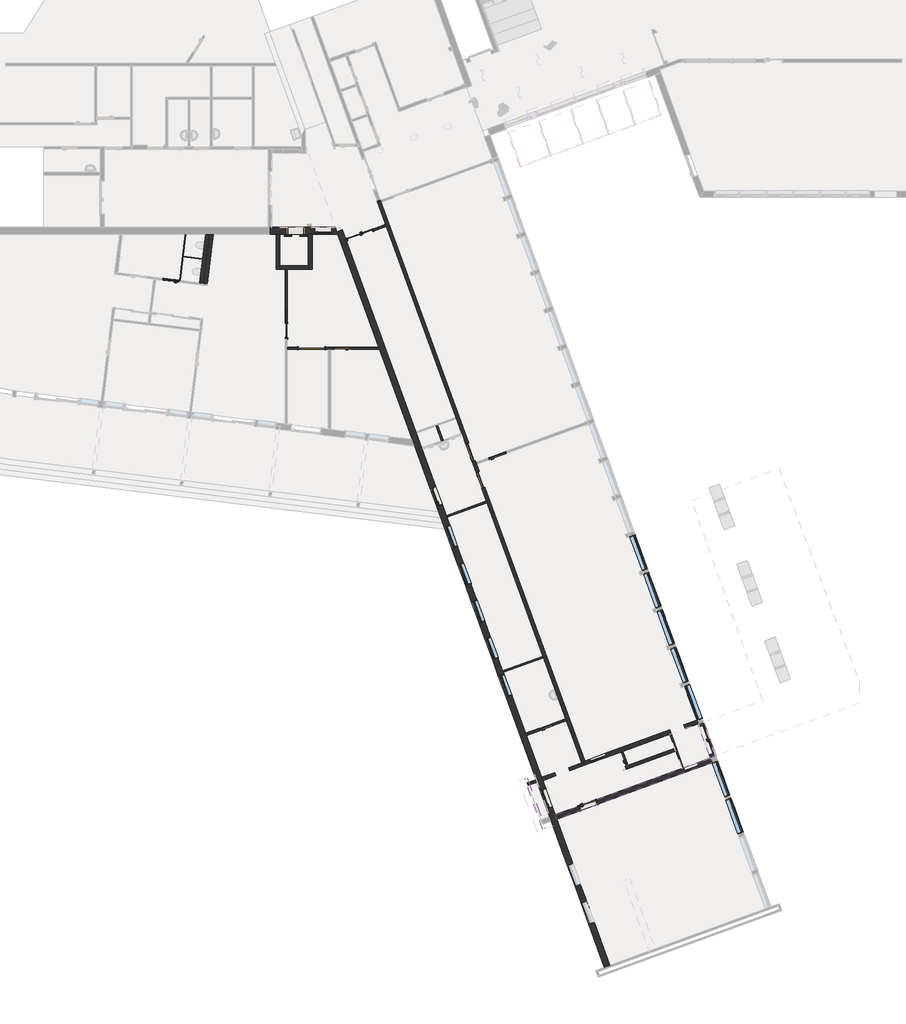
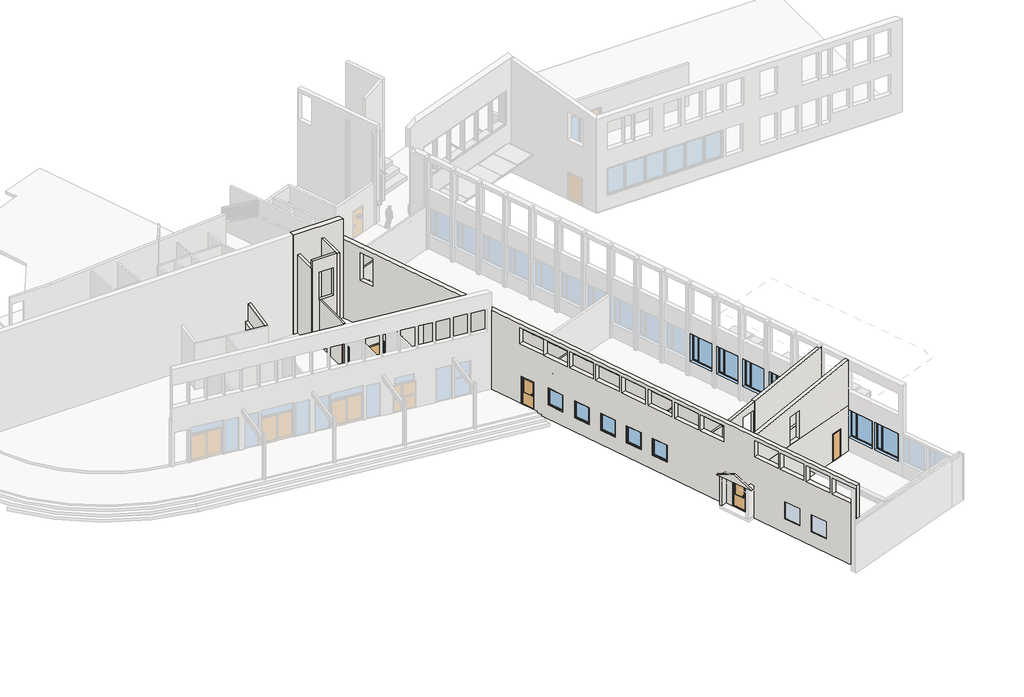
# One storey, part 3 of 13: 27 walls, 18 doors, 12 windows.
"""IFC4 building model written with IfcOpenShell, lengths in millimetres."""

from ifc_helpers import new_model, si_unit, frame, origin, place, context, project, spatial, polyline, outline, extrude, faceted_brep, transform, mapped, element, save
from components import door_10x21_93745690, door_10x21_f5951159, door_10x21_48b2b463, door_11x14_eecd2c83, door_7x20_159f4b39, door_8x21_c9f185f7, door_8x21_53164427, door_9x21_ce0798c1, door_9x21_26e5542c, door_9x21_9f36cf64, door_9x21_cb854033, door_9x21_cc0549d7, door_dbl_glass_1_side_topwindow_in_16x21m_3a073210, id_14x21m_9ddf2398, m_door_id_ays_2_1510_x_2110mm_sgl_swing_0fa4cad0, m_door_id_sgl_3_1010_x_2110mm_fbabd271, window_12x13_gh_d70a3594, window_193x212_32d242da, window_193x212_1140f226

model = new_model("IFC4")

# Units and contexts
model_context = context("Model", 3, world=origin())
ifc_project = project(units=[si_unit("LENGTHUNIT", "METRE", prefix="MILLI")], contexts=[model_context])

# Site, building, storey
site = spatial("IfcSite", under=ifc_project)
building = spatial("IfcBuilding", under=site)
storey = spatial("IfcBuildingStorey", under=building, Name="1.0 første etg hovedbygg", Elevation=2500.0)

# Doors
placement = place(None, origin())
door_10x21_shape = door_10x21_93745690(model_context)
element("IfcDoor", 1, ObjectType="Ytterdør eigen 1 glatt med glas : 10x21", at=placement, inside=storey, context=model_context, shape_type="MappedRepresentation", body=[
    mapped(door_10x21_shape, transform((38062.4638227, -30952.6972516, 2500.0), x_axis=(0.34202014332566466, -0.9396926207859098, 0.0), y_axis=(0.9396926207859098, 0.34202014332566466, 0.0), z_axis=(0.0, 0.0, 1.0))),
])
element("IfcDoor", 2, ObjectType="Ytterdør eigen 1 glatt med glas : 10x21", at=placement, inside=storey, context=model_context, shape_type="MappedRepresentation", body=[
    mapped(door_10x21_shape, transform((32126.7042353, -14644.3318179, 2500.0), x_axis=(0.34202014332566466, -0.9396926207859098, 0.0), y_axis=(0.9396926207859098, 0.34202014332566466, 0.0), z_axis=(0.0, 0.0, 1.0))),
])
door_10x21_2_shape = door_10x21_f5951159(model_context)
element("IfcDoor", 3, ObjectType="Innerdør Slett (Diplomat) : 10x21", at=placement, inside=storey, context=model_context, shape_type="MappedRepresentation", body=[
    mapped(door_10x21_2_shape, transform((35483.5155056, -12410.5193718, 2500.0), x_axis=(-0.9396926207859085, -0.34202014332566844, 0.0), y_axis=(0.34202014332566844, -0.9396926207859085, 0.0), z_axis=(0.0, 0.0, 1.0))),
])
door_10x21_3_shape = door_10x21_48b2b463(model_context)
element("IfcDoor", 4, ObjectType="Innerdør Slett (Diplomat) : 10x21", at=placement, inside=storey, context=model_context, shape_type="MappedRepresentation", body=[
    mapped(door_10x21_3_shape, transform((33969.2653414, -12221.7875865, 2500.0), x_axis=(0.34202014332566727, -0.9396926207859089, 0.0), y_axis=(0.9396926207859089, 0.34202014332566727, 0.0), z_axis=(0.0, 0.0, 1.0))),
])
door_11x14_shape = door_11x14_eecd2c83(model_context)
element("IfcDoor", 5, ObjectType="Hiss : 11x14", at=placement, inside=storey, context=model_context, shape_type="MappedRepresentation", body=[
    mapped(door_11x14_shape, transform((24631.409584, -295.0, 2500.0), x_axis=(-1.0, 0.0, 0.0), y_axis=(0.0, -1.0, 0.0), z_axis=(0.0, 0.0, 1.0))),
])
door_7x20_shape = door_7x20_159f4b39(model_context)
element("IfcDoor", 6, ObjectType="Innerdør Slett (Diplomat) : 7x20", at=placement, inside=storey, context=model_context, shape_type="MappedRepresentation", body=[
    mapped(door_7x20_shape, transform((42263.7852938, -28722.9083202, 2500.0), x_axis=(0.34202014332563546, -0.9396926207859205, 0.0), y_axis=(0.9396926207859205, 0.34202014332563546, 0.0), z_axis=(0.0, 0.0, 1.0))),
])
door_8x21_shape = door_8x21_c9f185f7(model_context)
element("IfcDoor", 7, ObjectType="Innerdør Slett (Diplomat) : 8x21", at=placement, inside=storey, context=model_context, shape_type="MappedRepresentation", body=[
    mapped(door_8x21_shape, transform((45954.7042998, -29250.752186, 2500.0), x_axis=(-0.9396926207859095, -0.3420201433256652, 0.0), y_axis=(0.3420201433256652, -0.9396926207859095, 0.0), z_axis=(0.0, 0.0, 1.0))),
])
door_8x21_2_shape = door_8x21_53164427(model_context)
element("IfcDoor", 8, ObjectType="Innerdør Slett (Diplomat) : 8x21", at=placement, inside=storey, context=model_context, shape_type="MappedRepresentation", body=[
    mapped(door_8x21_2_shape, transform((38132.5835837, -27056.7611873, 2500.0), x_axis=(-0.9396926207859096, -0.3420201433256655, 0.0), y_axis=(0.3420201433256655, -0.9396926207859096, 0.0), z_axis=(0.0, 0.0, 1.0))),
])
door_9x21_shape = door_9x21_ce0798c1(model_context)
element("IfcDoor", 9, ObjectType="Innerdør Slett (Diplomat) : 9x21", at=placement, inside=storey, context=model_context, shape_type="MappedRepresentation", body=[
    mapped(door_9x21_shape, transform((26994.5291738, -6630.0, 2500.0), x_axis=(1.0, 0.0, 0.0), y_axis=(0.0, 1.0, 0.0), z_axis=(0.0, 0.0, 1.0))),
])
element("IfcDoor", 10, ObjectType="Innerdør Slett (Diplomat) : 9x21", at=placement, inside=storey, context=model_context, shape_type="MappedRepresentation", body=[
    mapped(door_9x21_shape, transform((17755.1907324, -2955.8596873, 2500.0), x_axis=(0.9925461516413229, -0.1218693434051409, 0.0), y_axis=(0.1218693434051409, 0.9925461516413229, 0.0), z_axis=(0.0, 0.0, 1.0))),
])
door_9x21_2_shape = door_9x21_26e5542c(model_context)
element("IfcDoor", 11, ObjectType="Innerdør Slett (Diplomat) : 9x21", at=placement, inside=storey, context=model_context, shape_type="MappedRepresentation", body=[
    mapped(door_9x21_2_shape, transform((40917.945674, -28744.9196591, 2500.0), x_axis=(-0.9396926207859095, -0.34202014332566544, 0.0), y_axis=(0.34202014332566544, -0.9396926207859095, 0.0), z_axis=(0.0, 0.0, 1.0))),
])
door_9x21_3_shape = door_9x21_9f36cf64(model_context)
element("IfcDoor", 12, ObjectType="Innerdør Slett (Diplomat) : 9x21", at=placement, inside=storey, context=model_context, shape_type="MappedRepresentation", body=[
    mapped(door_9x21_3_shape, transform((34539.3305845, -13788.0289695, 2500.0), x_axis=(-0.34202014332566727, 0.9396926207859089, 0.0), y_axis=(-0.9396926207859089, -0.34202014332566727, 0.0), z_axis=(0.0, 0.0, 1.0))),
])
door_9x21_4_shape = door_9x21_cb854033(model_context)
element("IfcDoor", 13, ObjectType="Innerdør stål branndørA60 : 9x21", at=placement, inside=storey, context=model_context, shape_type="MappedRepresentation", body=[
    mapped(door_9x21_4_shape, transform((26086.6929048, -295.0, 2500.0), x_axis=(-1.0, 0.0, 0.0), y_axis=(0.0, -1.0, 0.0), z_axis=(0.0, 0.0, 1.0))),
])
door_9x21_5_shape = door_9x21_cc0549d7(model_context)
element("IfcDoor", 14, ObjectType="Innerdor Skyvedor Glatt : 9x21", at=placement, inside=storey, context=model_context, shape_type="MappedRepresentation", body=[
    mapped(door_9x21_5_shape, transform((24042.9088069, -5677.0, 2500.0), x_axis=(0.0, -1.0, 0.0), y_axis=(1.0, 0.0, 0.0), z_axis=(0.0, 0.0, 1.0))),
])
door_dbl_glass_1_side_topwindow_in_16x21m_shape = door_dbl_glass_1_side_topwindow_in_16x21m_3a073210(model_context)
element("IfcDoor", 15, ObjectType="Door-Dbl-Glass-1-Side-TopWindow : IN 16x21M", at=placement, inside=storey, context=model_context, shape_type="MappedRepresentation", body=[
    mapped(door_dbl_glass_1_side_topwindow_in_16x21m_shape, transform((46740.7773769, -27780.2151232, 2500.0), x_axis=(0.34202014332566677, -0.9396926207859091, 0.0), y_axis=(0.9396926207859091, 0.34202014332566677, 0.0), z_axis=(0.0, 0.0, 1.0))),
])
id_14x21m_shape = id_14x21m_9ddf2398(model_context)
element("IfcDoor", 16, ObjectType="Innerdør slett tofløya lite sidefelt : ID 14x21M", at=placement, inside=storey, context=model_context, shape_type="MappedRepresentation", body=[
    mapped(id_14x21m_shape, transform((24794.9088069, -6630.0, 2500.0), x_axis=(-1.0, 0.0, 0.0), y_axis=(0.0, -1.0, 0.0), z_axis=(0.0, 0.0, 1.0))),
])
m_door_id_ays_2_1510_x_2110mm_sgl_swing_shape = m_door_id_ays_2_1510_x_2110mm_sgl_swing_0fa4cad0(model_context)
element("IfcDoor", 17, ObjectType="M_Door_ID_Ays_2 : 1510 x 2110mm Sgl Swing", at=placement, inside=storey, context=model_context, shape_type="MappedRepresentation", body=[
    mapped(m_door_id_ays_2_1510_x_2110mm_sgl_swing_shape, transform((28237.2384467, -437.8518922, 2500.0), x_axis=(-0.9396926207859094, -0.34202014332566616, 0.0), y_axis=(0.34202014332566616, -0.9396926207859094, 0.0), z_axis=(0.0, 0.0, 1.0))),
])
m_door_id_sgl_3_1010_x_2110mm_shape = m_door_id_sgl_3_1010_x_2110mm_fbabd271(model_context)
element("IfcDoor", 18, ObjectType="M_Door_ID_Sgl_3 : 1010 x 2110mm", at=placement, inside=storey, context=model_context, shape_type="MappedRepresentation", body=[
    mapped(m_door_id_sgl_3_1010_x_2110mm_shape, transform((40328.9647362, -31298.3539329, 2500.0), x_axis=(0.9396926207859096, 0.34202014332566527, 0.0), y_axis=(-0.34202014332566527, 0.9396926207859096, 0.0), z_axis=(0.0, 0.0, 1.0))),
])

# Walls
element("IfcWall", 19, ObjectType="Yttervegg 150 betong + 150 leca innv puss", at=placement, inside=storey, context=model_context, shape_type="Brep", body=[
    faceted_brep([(41501.7701591, -39948.9240676, 2300.0), (38630.5110559, -32060.2045161, 2300.0), (38538.1656172, -31806.4875085, 2300.0), (37870.2002773, -29971.2678201, 2300.0), (37808.6366515, -29802.1231483, 2300.0), (27049.6269282, -241.9868778, 2300.0), (27049.6269282, -241.9868778, 8560.0), (41501.7701591, -39948.9240676, 8560.0), (40655.0992943, -37622.7149848, 3380.0), (40655.0992943, -37622.7149848, 4690.0), (40241.2549209, -36485.6869137, 4690.0), (40241.2549209, -36485.6869137, 3380.0), (39911.3764927, -35579.3533809, 3380.0), (39911.3764927, -35579.3533809, 4690.0), (39497.5321193, -34442.3253098, 4690.0), (39497.5321193, -34442.3253098, 3380.0), (36193.6175347, -25364.894593, 3380.0), (36193.6175347, -25364.894593, 4690.0), (35779.7731613, -24227.8665218, 4690.0), (35779.7731613, -24227.8665218, 3380.0), (35461.694428, -23353.9523845, 3380.0), (35461.694428, -23353.9523845, 4690.0), (35047.8500546, -22216.9243133, 4690.0), (35047.8500546, -22216.9243133, 3380.0), (34736.6117242, -21361.8040284, 3380.0), (34736.6117242, -21361.8040284, 4690.0), (34322.7673507, -20224.7759573, 4690.0), (34322.7673507, -20224.7759573, 3380.0), (38380.8363513, -31374.2289029, 2500.0), (38380.8363513, -31374.2289029, 4610.0), (38035.3960065, -30425.1393559, 4610.0), (38035.3960065, -30425.1393559, 2500.0), (37067.4790009, -27765.8092391, 7040.0), (37067.4790009, -27765.8092391, 8270.0), (36407.3801243, -25952.202481, 8270.0), (36407.3801243, -25952.202481, 7040.0), (35654.935809, -23884.8787152, 8270.0), (35654.935809, -23884.8787152, 7040.0), (36315.0346856, -25698.4854734, 7040.0), (36315.0346856, -25698.4854734, 8270.0), (34923.0127023, -21873.9365068, 8270.0), (34923.0127023, -21873.9365068, 7040.0), (35583.1115789, -23687.5432649, 7040.0), (35583.1115789, -23687.5432649, 8270.0), (34184.2491927, -19844.2004459, 8270.0), (34184.2491927, -19844.2004459, 7040.0), (34844.3480693, -21657.807204, 7040.0), (34844.3480693, -21657.807204, 8270.0), (40834.4888595, -38115.5837644, 8270.0), (40834.4888595, -38115.5837644, 7040.0), (41494.5877361, -39929.1905225, 7040.0), (41494.5877361, -39929.1905225, 8270.0), (40103.9855869, -36108.5425179, 8270.0), (40103.9855869, -36108.5425179, 7040.0), (40764.0844635, -37922.1492761, 7040.0), (40764.0844635, -37922.1492761, 8270.0), (39373.7725809, -34102.2987726, 8270.0), (39373.7725809, -34102.2987726, 7040.0), (40033.8714575, -35915.9055307, 7040.0), (40033.8714575, -35915.9055307, 8270.0), (38650.3999777, -32114.8488796, 8270.0), (38650.3999777, -32114.8488796, 7040.0), (39310.4988543, -33928.4556377, 7040.0), (39310.4988543, -33928.4556377, 8270.0), (37125.6224253, -27925.5569846, 8270.0), (37125.6224253, -27925.5569846, 7040.0), (37785.7213019, -29739.1637427, 7040.0), (37785.7213019, -29739.1637427, 8270.0), (34112.4249626, -19646.8649955, 8270.0), (33452.326086, -17833.2582374, 8270.0), (33452.326086, -17833.2582374, 7040.0), (34112.4249626, -19646.8649955, 7040.0), (32852.0807344, -16184.0976879, 3380.0), (33265.9251079, -17321.125759, 3380.0), (33265.9251079, -17321.125759, 4690.0), (32852.0807344, -16184.0976879, 4690.0), (32099.6364191, -14116.7739222, 2500.0), (32445.0767639, -15065.8634692, 2500.0), (32445.0767639, -15065.8634692, 4610.0), (32099.6364191, -14116.7739222, 4610.0), (27574.7099229, -1684.6405492, 8135.0), (27574.7099229, -1684.6405492, 6020.0), (27920.1502677, -2633.7300962, 6020.0), (27920.1502677, -2633.7300962, 8135.0), (32728.9534828, -15845.8083444, 7040.0), (33389.0523595, -17659.4151025, 7040.0), (33389.0523595, -17659.4151025, 8270.0), (32728.9534828, -15845.8083444, 8270.0), (32051.7535991, -13985.2169553, 7040.0), (32711.8524757, -15798.8237134, 7040.0), (32711.8524757, -15798.8237134, 8270.0), (32051.7535991, -13985.2169553, 8270.0), (34004.6886174, -19350.8618199, 3380.0), (34004.6886174, -19350.8618199, 4690.0), (33590.844244, -18213.8337488, 4690.0), (33590.844244, -18213.8337488, 3380.0), (26758.3222157, -348.0131222, 2300.0), (26806.3615106, -480.0, 2300.0), (41210.4654467, -40054.950312, 2300.0), (41210.4654467, -40054.950312, 8560.0), (26758.3222157, -348.0131222, 8560.0), (40363.7945819, -37728.7412292, 4690.0), (40363.7945819, -37728.7412292, 3380.0), (39949.9502085, -36591.7131581, 3380.0), (39949.9502085, -36591.7131581, 4690.0), (39620.0717802, -35685.3796253, 4690.0), (39620.0717802, -35685.3796253, 3380.0), (39206.2274068, -34548.3515542, 3380.0), (39206.2274068, -34548.3515542, 4690.0), (35902.3128223, -25470.9208374, 4690.0), (35902.3128223, -25470.9208374, 3380.0), (35488.4684489, -24333.8927663, 3380.0), (35488.4684489, -24333.8927663, 4690.0), (35170.3897156, -23459.9786289, 4690.0), (35170.3897156, -23459.9786289, 3380.0), (34756.5453421, -22322.9505578, 3380.0), (34756.5453421, -22322.9505578, 4690.0), (34445.3070117, -21467.8302729, 4690.0), (34445.3070117, -21467.8302729, 3380.0), (34031.4626383, -20330.8022017, 3380.0), (34031.4626383, -20330.8022017, 4690.0), (38089.5316389, -31480.2551473, 4610.0), (38089.5316389, -31480.2551473, 2500.0), (37744.0912941, -30531.1656003, 2500.0), (37744.0912941, -30531.1656003, 4610.0), (36776.1742885, -27871.8354835, 8270.0), (36776.1742885, -27871.8354835, 7040.0), (36116.0754119, -26058.2287254, 7040.0), (36116.0754119, -26058.2287254, 8270.0), (35363.6310966, -23990.9049597, 7040.0), (35363.6310966, -23990.9049597, 8270.0), (36023.7299732, -25804.5117178, 8270.0), (36023.7299732, -25804.5117178, 7040.0), (34631.7079898, -21979.9627512, 7040.0), (34631.7079898, -21979.9627512, 8270.0), (35291.8068665, -23793.5695093, 8270.0), (35291.8068665, -23793.5695093, 7040.0), (33892.9444803, -19950.2266903, 7040.0), (33892.9444803, -19950.2266903, 8270.0), (34553.0433569, -21763.8334484, 8270.0), (34553.0433569, -21763.8334484, 7040.0), (40543.1841471, -38221.6100088, 7040.0), (40543.1841471, -38221.6100088, 8270.0), (41203.2830237, -40035.216767, 8270.0), (41203.2830237, -40035.216767, 7040.0), (39812.6808744, -36214.5687624, 7040.0), (39812.6808744, -36214.5687624, 8270.0), (40472.779751, -38028.1755205, 8270.0), (40472.779751, -38028.1755205, 7040.0), (39082.4678684, -34208.325017, 7040.0), (39082.4678684, -34208.325017, 8270.0), (39742.566745, -36021.9317751, 8270.0), (39742.566745, -36021.9317751, 7040.0), (38359.0952653, -32220.875124, 7040.0), (38359.0952653, -32220.875124, 8270.0), (39019.1941419, -34034.4818821, 8270.0), (39019.1941419, -34034.4818821, 7040.0), (36834.3177129, -28031.583229, 7040.0), (36834.3177129, -28031.583229, 8270.0), (37494.4165895, -29845.1899872, 8270.0), (37494.4165895, -29845.1899872, 7040.0), (33161.0213735, -17939.2844818, 8270.0), (33821.1202502, -19752.8912399, 8270.0), (33821.1202502, -19752.8912399, 7040.0), (33161.0213735, -17939.2844818, 7040.0), (32974.6203954, -17427.1520035, 3380.0), (32560.776022, -16290.1239323, 3380.0), (32560.776022, -16290.1239323, 4690.0), (32974.6203954, -17427.1520035, 4690.0), (32153.7720514, -15171.8897136, 2500.0), (31808.3317067, -14222.8001666, 2500.0), (31808.3317067, -14222.8001666, 4610.0), (32153.7720514, -15171.8897136, 4610.0), (27283.4052105, -1790.6667936, 6020.0), (27283.4052105, -1790.6667936, 8135.0), (27628.8455552, -2739.7563406, 8135.0), (27628.8455552, -2739.7563406, 6020.0), (33097.747647, -17765.441347, 7040.0), (32437.6487704, -15951.8345888, 7040.0), (32437.6487704, -15951.8345888, 8270.0), (33097.747647, -17765.441347, 8270.0), (32420.5477632, -15904.8499578, 7040.0), (31760.4488866, -14091.2431997, 7040.0), (31760.4488866, -14091.2431997, 8270.0), (32420.5477632, -15904.8499578, 8270.0), (33713.383905, -19456.8880644, 4690.0), (33713.383905, -19456.8880644, 3380.0), (33299.5395316, -18319.8599932, 3380.0), (33299.5395316, -18319.8599932, 4690.0)], [[[0, 1, 2, 3, 4, 5, 6, 7], [8, 9, 10, 11], [12, 13, 14, 15], [16, 17, 18, 19], [20, 21, 22, 23], [24, 25, 26, 27], [28, 29, 30, 31], [32, 33, 34, 35], [36, 37, 38, 39], [40, 41, 42, 43], [44, 45, 46, 47], [48, 49, 50, 51], [52, 53, 54, 55], [56, 57, 58, 59], [60, 61, 62, 63], [64, 65, 66, 67], [68, 69, 70, 71], [72, 73, 74, 75], [76, 77, 78, 79], [80, 81, 82, 83], [84, 85, 86, 87], [88, 89, 90, 91], [92, 93, 94, 95]], [[96, 97, 98, 99, 100], [101, 102, 103, 104], [105, 106, 107, 108], [109, 110, 111, 112], [113, 114, 115, 116], [117, 118, 119, 120], [121, 122, 123, 124], [125, 126, 127, 128], [129, 130, 131, 132], [133, 134, 135, 136], [137, 138, 139, 140], [141, 142, 143, 144], [145, 146, 147, 148], [149, 150, 151, 152], [153, 154, 155, 156], [157, 158, 159, 160], [161, 162, 163, 164], [165, 166, 167, 168], [169, 170, 171, 172], [173, 174, 175, 176], [177, 178, 179, 180], [181, 182, 183, 184], [185, 186, 187, 188]], [[5, 4, 3, 2, 1, 0, 98, 97, 96]], [[6, 5, 96, 100]], [[7, 6, 100, 99]], [[9, 8, 102, 101]], [[10, 9, 101, 104]], [[11, 10, 104, 103]], [[8, 11, 103, 102]], [[13, 12, 106, 105]], [[14, 13, 105, 108]], [[15, 14, 108, 107]], [[12, 15, 107, 106]], [[17, 16, 110, 109]], [[18, 17, 109, 112]], [[19, 18, 112, 111]], [[16, 19, 111, 110]], [[21, 20, 114, 113]], [[22, 21, 113, 116]], [[23, 22, 116, 115]], [[20, 23, 115, 114]], [[25, 24, 118, 117]], [[26, 25, 117, 120]], [[27, 26, 120, 119]], [[24, 27, 119, 118]], [[29, 28, 122, 121]], [[30, 29, 121, 124]], [[31, 30, 124, 123]], [[28, 31, 123, 122]], [[33, 32, 126, 125]], [[34, 33, 125, 128]], [[35, 34, 128, 127]], [[32, 35, 127, 126]], [[130, 129, 37, 36]], [[131, 130, 36, 39]], [[132, 131, 39, 38]], [[129, 132, 38, 37]], [[134, 133, 41, 40]], [[135, 134, 40, 43]], [[136, 135, 43, 42]], [[133, 136, 42, 41]], [[138, 137, 45, 44]], [[139, 138, 44, 47]], [[140, 139, 47, 46]], [[137, 140, 46, 45]], [[142, 141, 49, 48]], [[143, 142, 48, 51]], [[144, 143, 51, 50]], [[141, 144, 50, 49]], [[146, 145, 53, 52]], [[147, 146, 52, 55]], [[148, 147, 55, 54]], [[145, 148, 54, 53]], [[150, 149, 57, 56]], [[151, 150, 56, 59]], [[152, 151, 59, 58]], [[149, 152, 58, 57]], [[154, 153, 61, 60]], [[155, 154, 60, 63]], [[156, 155, 63, 62]], [[153, 156, 62, 61]], [[65, 64, 158, 157]], [[67, 66, 160, 159]], [[66, 65, 157, 160]], [[64, 67, 159, 158]], [[7, 99, 98, 0]], [[92, 186, 185, 93]], [[93, 185, 188, 94]], [[186, 92, 95, 187]], [[161, 69, 68, 162]], [[162, 68, 71, 163]], [[163, 71, 70, 164]], [[73, 72, 166, 165]], [[72, 75, 167, 166]], [[75, 74, 168, 167]], [[74, 73, 165, 168]], [[77, 76, 170, 169]], [[76, 79, 171, 170]], [[79, 78, 172, 171]], [[78, 77, 169, 172]], [[81, 80, 174, 173]], [[82, 81, 173, 176]], [[83, 82, 176, 175]], [[80, 83, 175, 174]], [[178, 177, 85, 84]], [[177, 180, 86, 85]], [[180, 179, 87, 86]], [[179, 178, 84, 87]], [[182, 181, 89, 88]], [[181, 184, 90, 89]], [[184, 183, 91, 90]], [[183, 182, 88, 91]], [[69, 161, 164, 70]], [[187, 95, 94, 188]]]),
])
element("IfcWall", 20, ObjectType="Yttervegg Mur 350 isoblokk pusset", at=placement, inside=storey, context=model_context, shape_type="Brep", body=[
    faceted_brep([(26671.6925239, -110.0, 2050.0), (23151.9162483, -110.0, 2050.0), (23151.9162483, -110.0, 10110.0), (26671.6925239, -110.0, 10110.0), (25048.3132717, -110.0, 2500.0), (25048.3132717, -110.0, 4610.0), (24038.3132717, -110.0, 4610.0), (24038.3132717, -110.0, 2500.0), (25578.3132717, -110.0, 2500.0), (26488.3132717, -110.0, 2500.0), (26488.3132717, -110.0, 4615.0), (25578.3132717, -110.0, 4615.0), (23151.9162483, -480.0, 2050.0), (26806.3615106, -480.0, 2050.0), (26806.3615106, -480.0, 2300.0), (26806.3615106, -480.0, 10110.0), (23151.9162483, -480.0, 10110.0), (25048.3132717, -480.0, 4610.0), (25048.3132717, -480.0, 2500.0), (24038.3132717, -480.0, 2500.0), (24038.3132717, -480.0, 4610.0), (26488.3132717, -480.0, 2500.0), (25578.3132717, -480.0, 2500.0), (25578.3132717, -480.0, 4615.0), (26488.3132717, -480.0, 4615.0)], [[[0, 1, 2, 3], [4, 5, 6, 7], [8, 9, 10, 11]], [[12, 13, 14, 15, 16], [17, 18, 19, 20], [21, 22, 23, 24]], [[1, 0, 13, 12]], [[3, 2, 16, 15]], [[3, 15, 14, 13, 0]], [[1, 12, 16, 2]], [[17, 5, 4, 18]], [[18, 4, 7, 19]], [[19, 7, 6, 20]], [[5, 17, 20, 6]], [[8, 22, 21, 9]], [[9, 21, 24, 10]], [[10, 24, 23, 11]], [[22, 8, 11, 23]]]),
])
element("IfcWall", 21, ObjectType="Yttervegg Mur 200 Lettklinker pusset", at=placement, inside=storey, context=model_context, shape_type="Brep", body=[
    faceted_brep([(46186.4109494, -26710.2955636, 2300.0), (40054.9165988, -28941.9769988, 2300.0), (40054.9165988, -28941.9769988, 2500.0), (40054.9165988, -28941.9769988, 5820.0), (40054.9165988, -28941.9769988, 8812.7756858), (46186.4109494, -26710.2955636, 9498.5808209), (45481.6414838, -26966.8106711, 4458.5460774), (44729.8873872, -27240.4267858, 4458.5460774), (44729.8873872, -27240.4267858, 2480.8), (45481.6414838, -26966.8106711, 2480.8), (40402.6028685, -28815.4295458, 2500.0), (41257.7231534, -28504.1912153, 2500.0), (41257.7231534, -28504.1912153, 4615.0), (40402.6028685, -28815.4295458, 4615.0), (40130.1610303, -29148.7093754, 8812.7756858), (40130.1610303, -29148.7093754, 2300.0), (46261.6553809, -26917.0279402, 2300.0), (46261.6553809, -26917.0279402, 9498.5808209), (44805.1318187, -27447.1591623, 4458.5460774), (45556.8859153, -27173.5430477, 4458.5460774), (45556.8859153, -27173.5430477, 2480.8), (44805.1318187, -27447.1591623, 2480.8), (40477.8473, -29022.1619223, 2500.0), (40477.8473, -29022.1619223, 4615.0), (41332.9675849, -28710.9235919, 4615.0), (41332.9675849, -28710.9235919, 2500.0), (40068.5974045, -28979.5647036, 2300.0), (40068.5974045, -28979.5647036, 8812.7756858)], [[[0, 1, 2, 3, 4, 5], [6, 7, 8, 9], [10, 11, 12, 13]], [[14, 15, 16, 17], [18, 19, 20, 21], [22, 23, 24, 25]], [[1, 0, 16, 15, 26]], [[6, 19, 18, 7]], [[8, 21, 20, 9]], [[19, 6, 9, 20]], [[7, 18, 21, 8]], [[11, 10, 22, 25]], [[12, 11, 25, 24]], [[13, 12, 24, 23]], [[10, 13, 23, 22]], [[0, 5, 17, 16]], [[5, 4, 27, 14, 17]], [[1, 26, 15, 14, 27, 4, 3, 2]]]),
])
element("IfcWall", 22, ObjectType="170 betongvegg", at=placement, inside=storey, context=model_context, shape_type="Brep", body=[
    faceted_brep([(29115.1621128, 1363.2747999, 2500.0), (29115.1621128, 1363.2747999, 5820.0), (29115.927514, 1361.1718772, 5820.0), (29157.6539715, 1246.5293775, 5820.0), (34266.0668322, -12788.7196065, 5820.0), (34307.7932897, -12903.3621063, 5820.0), (40134.7904715, -28912.9052866, 5820.0), (40134.7904715, -28912.9052866, 2500.0), (34756.5667127, -14136.3569525, 2500.0), (34756.5667127, -14136.3569525, 4615.0), (34445.3283823, -13281.2366676, 4615.0), (34445.3283823, -13281.2366676, 2500.0), (34307.7932897, -12903.3621063, 2500.0), (34266.0668322, -12788.7196065, 2500.0), (34240.1162963, -12717.4210951, 2500.0), (34240.1162963, -12717.4210951, 4615.0), (33894.6759515, -11768.3315481, 4615.0), (33894.6759515, -11768.3315481, 2500.0), (29157.6539715, 1246.5293775, 2500.0), (29115.927514, 1361.1718772, 2500.0), (28955.4143672, 1305.1313755, 5820.0), (28955.4143672, 1305.1313755, 2500.0), (29411.0665591, 53.2372672, 2500.0), (29452.1089763, -59.5258473, 2500.0), (33198.5976263, -10352.9188153, 2500.0), (33230.0634795, -10439.3705365, 2500.0), (33517.0183797, -11227.7726453, 2500.0), (33517.0183797, -11227.7726453, 4615.0), (33548.4842329, -11314.2243664, 4615.0), (33548.4842329, -11314.2243664, 2500.0), (33734.928206, -11826.4749725, 2500.0), (33734.928206, -11826.4749725, 4615.0), (34080.3685508, -12775.5645194, 4615.0), (34080.3685508, -12775.5645194, 2500.0), (34285.5806368, -13339.3800919, 2500.0), (34285.5806368, -13339.3800919, 4615.0), (34596.8189672, -14194.5003768, 4615.0), (34596.8189672, -14194.5003768, 2500.0), (34845.7666366, -14878.4784771, 2500.0), (34879.9686509, -14972.4477391, 2500.0), (37896.2442949, -23259.5969618, 2500.0), (37923.6059063, -23334.7723715, 2500.0), (39123.4125691, -26631.2140852, 2500.0), (39165.1390266, -26745.856585, 2500.0), (39988.7235317, -29008.6364158, 2500.0), (39988.7235317, -29008.6364158, 5820.0), (39165.1390266, -26745.856585, 5820.0), (39123.4125691, -26631.2140852, 5820.0), (37923.6059063, -23334.7723715, 5820.0), (37896.2442949, -23259.5969618, 5820.0), (34879.9686509, -14972.4477391, 5820.0), (34845.7666366, -14878.4784771, 5820.0), (33548.4842329, -11314.2243664, 5820.0), (33517.0183797, -11227.7726453, 5820.0), (33230.0634795, -10439.3705365, 5820.0), (33198.5976263, -10352.9188153, 5820.0), (29452.1089763, -59.5258473, 5820.0), (29411.0665591, 53.2372672, 5820.0), (40054.9165988, -28941.9769988, 2500.0), (40068.5974045, -28979.5647036, 2500.0), (33551.3033108, -11313.198306, 2500.0), (33519.8374576, -11226.7465849, 2500.0), (40068.5974045, -28979.5647036, 5820.0), (40054.9165988, -28941.9769988, 5820.0), (33551.3033108, -11313.198306, 4615.0), (33519.8374576, -11226.7465849, 4615.0)], [[[0, 1, 2, 3, 4, 5, 6, 7, 8, 9, 10, 11, 12, 13, 14, 15, 16, 17, 18, 19]], [[20, 21, 22, 23, 24, 25, 26, 27, 28, 29, 30, 31, 32, 33, 34, 35, 36, 37, 38, 39, 40, 41, 42, 43, 44, 45, 46, 47, 48, 49, 50, 51, 52, 53, 54, 55, 56, 57]], [[7, 58, 59, 44, 43, 42, 41, 40, 39, 38, 37, 8]], [[21, 0, 19, 18, 17, 30, 29, 60, 61, 26, 25, 24, 23, 22]], [[11, 34, 33, 14, 13, 12]], [[1, 0, 21, 20]], [[6, 5, 4, 3, 2, 1, 20, 57, 56, 55, 54, 53, 52, 51, 50, 49, 48, 47, 46, 45, 62, 63]], [[7, 6, 63, 58]], [[63, 62, 59, 58]], [[45, 44, 59, 62]], [[64, 60, 29, 28]], [[61, 65, 27, 26]], [[60, 64, 65, 61]], [[65, 64, 28, 27]], [[36, 9, 8, 37]], [[9, 36, 35, 10]], [[10, 35, 34, 11]], [[16, 31, 30, 17]], [[31, 16, 15, 32]], [[32, 15, 14, 33]]]),
])
element("IfcWall", 23, ObjectType="innvendig vegg 98 isolert", at=placement, inside=storey, context=model_context, shape_type="SweptSolid", body=[
    extrude(outline(polyline([(-795.0000001, -2115.0), (-795.0000001, 0.0), (-70.0000001, 0.0), (-70.0000001, -3320.0), (-2390.0, -3320.0), (-2390.0, 0.0), (-1605.0000001, 0.0), (-1605.0000001, -2115.0), (-795.0000001, -2115.0)])), frame((39230.9175101, -26721.9151749, 2500.0), z_axis=(-0.3420201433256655, 0.9396926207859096, 0.0), x_axis=(0.9396926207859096, 0.3420201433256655, 0.0)), (0.0, 0.0, 1.0), 122.0),
])
element("IfcWall", 24, ObjectType="Innervegg Tre 68 med isolasjon", at=placement, inside=storey, context=model_context, shape_type="SweptSolid", body=[
    extrude(outline(polyline([(32411.9398577, -11629.9883338), (32124.9849574, -10841.586225), (32211.4366785, -10810.1203718), (32498.3915788, -11598.5224807), (32411.9398577, -11629.9883338)])), frame((0.0, 0.0, 2500.0), z_axis=(0.0, 0.0, 1.0), x_axis=(1.0, 0.0, 0.0)), (0.0, 0.0, 1.0), 3320.0),
])
element("IfcWall", 25, ObjectType="Yttervegg Mur 250 Lettklinker pusset", at=placement, inside=storey, context=model_context, shape_type="SweptSolid", body=[
    extrude(outline(polyline([(415.0, 0.0), (9345.0, 0.0), (9345.0, -3498.5808209), (415.0, -2560.0), (415.0, 0.0)]), holes=[polyline([(4560.0, -2135.0), (4560.0, -20.0), (3650.0000001, -20.0), (3650.0000001, -2135.0), (4560.0, -2135.0)])]), frame((38240.5386183, -32202.1428756, 6000.0), z_axis=(-0.34202014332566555, 0.9396926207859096, 0.0), x_axis=(0.9396926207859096, 0.34202014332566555, 0.0)), (0.0, 0.0, 1.0), 270.0),
])
element("IfcWall", 26, ObjectType="Yttervegg Mur 250 Lettklinker pusset", at=placement, inside=storey, context=model_context, shape_type="SweptSolid", body=[
    extrude(outline(polyline([(415.0, 0.0), (9345.0, 0.0), (9345.0, -3700.0), (415.0, -3700.0), (415.0, 0.0)]), holes=[polyline([(8610.0000001, -200.0), (7800.0, -200.0), (7800.0, -2315.0), (8610.0000001, -2315.0), (8610.0000001, -200.0)]), polyline([(1766.5926358, -2310.0), (2776.5926358, -2310.0), (2776.5926358, -200.0), (1766.5926358, -200.0), (1766.5926358, -2310.0)])]), frame((38240.5386183, -32202.1428756, 2300.0), z_axis=(-0.34202014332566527, 0.9396926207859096, 0.0), x_axis=(0.9396926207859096, 0.34202014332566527, 0.0)), (0.0, 0.0, 1.0), 270.0),
])
element("IfcWall", 27, ObjectType="Yttervegg Betong - Massiv 180mm", at=placement, inside=storey, context=model_context, shape_type="Brep", body=[
    faceted_brep([(40068.5974045, -28979.5647036, 8812.7756858), (40068.5974045, -28979.5647036, 5820.0), (40068.5974045, -28979.5647036, 2500.0), (40068.5974045, -28979.5647036, 2300.0), (37808.6366515, -29802.1231483, 2300.0), (37808.6366515, -29802.1231483, 8560.0), (39960.5327531, -29018.8970201, 6020.0), (39960.5327531, -29018.8970201, 8135.0), (39011.4432061, -29364.3373649, 8135.0), (39011.4432061, -29364.3373649, 6020.0), (39270.4529473, -29270.0655287, 4580.8), (38512.8500131, -29545.8104461, 4580.8), (38512.8500131, -29545.8104461, 2480.8), (39270.4529473, -29270.0655287, 2480.8), (37870.2002773, -29971.2678201, 2300.0), (40130.1610303, -29148.7093754, 2300.0), (40130.1610303, -29148.7093754, 8812.7756858), (37870.2002773, -29971.2678201, 8560.0), (40022.0963789, -29188.0416919, 6020.0), (39073.0068319, -29533.4820366, 6020.0), (39073.0068319, -29533.4820366, 8135.0), (40022.0963789, -29188.0416919, 8135.0), (38574.4136389, -29714.9551179, 4580.8), (39332.0165731, -29439.2102004, 4580.8), (39332.0165731, -29439.2102004, 2480.8), (38574.4136389, -29714.9551179, 2480.8)], [[[0, 1, 2, 3, 4, 5], [6, 7, 8, 9], [10, 11, 12, 13]], [[14, 15, 16, 17], [18, 19, 20, 21], [22, 23, 24, 25]], [[4, 3, 15, 14]], [[5, 4, 14, 17]], [[0, 5, 17, 16]], [[18, 21, 7, 6]], [[19, 18, 6, 9]], [[20, 19, 9, 8]], [[21, 20, 8, 7]], [[10, 23, 22, 11]], [[12, 25, 24, 13]], [[23, 10, 13, 24]], [[11, 22, 25, 12]], [[0, 16, 15, 3, 2, 1]]]),
])
element("IfcWall", 28, ObjectType="Yttervegg Tre 98 Uisolert Liggende kledning", at=placement, inside=storey, context=model_context, shape_type="SweptSolid", body=[
    extrude(outline(polyline([(37052.2739107, -30092.3151611), (37522.1202211, -29921.3050894), (37574.1072829, -30064.1383678), (37104.2609725, -30235.1484395), (37052.2739107, -30092.3151611)])), frame((0.0, 0.0, 2500.0), z_axis=(0.0, 0.0, 1.0), x_axis=(1.0, 0.0, 0.0)), (0.0, 0.0, 1.0), 2300.0),
])
element("IfcWall", 29, ObjectType="Yttervegg Tre 98 Uisolert Liggende kledning", at=placement, inside=storey, context=model_context, shape_type="SweptSolid", body=[
    extrude(outline(polyline([(1555.2564664, -1e-07), (-1118.757876, -1080.3719226), (0.0, 0.0), (1555.2564664, -1e-07)])), frame((37389.4003327, -31240.7715275, 5382.6093268), z_axis=(0.9396926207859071, 0.34202014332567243, 0.0), x_axis=(-0.31711555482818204, 0.8712678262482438, -0.37460659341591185)), (0.0, 0.0, 1.0), 152.0),
])
element("IfcWall", 30, ObjectType="Yttervegg 150 betong + 150 leca innv puss", at=placement, inside=storey, context=model_context, shape_type="SweptSolid", body=[
    extrude(outline(polyline([(43162.0, -2710.0), (44772.0, -2710.0), (44772.0, -2390.0), (44915.5, -2390.0), (44915.5, -3374.0), (43031.5, -3374.0), (43031.5, -2390.0), (43162.0, -2390.0), (43162.0, -2710.0)])), frame((31555.8152784, 13486.9356758, 2300.0), z_axis=(0.9396926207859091, 0.34202014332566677, 0.0), x_axis=(0.34202014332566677, -0.9396926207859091, 0.0)), (0.0, 0.0, 1.0), 310.0),
])
element("IfcWall", 31, ObjectType="Yttervegg 150 betong + 150 leca innv puss", at=placement, inside=storey, context=model_context, shape_type="SweptSolid", body=[
    extrude(outline(polyline([(46273.4550759, -26949.4473356), (46564.7597883, -26843.4210912), (46609.393417, -26966.0509782), (46318.0887046, -27072.0772226), (46273.4550759, -26949.4473356)])), frame((0.0, 0.0, 3540.0), z_axis=(0.0, 0.0, 1.0), x_axis=(1.0, 0.0, 0.0)), (0.0, 0.0, 1.0), 984.0),
    extrude(outline(polyline([(47209.1257383, -28613.8019887), (46917.8210259, -28719.8282331), (46868.7411353, -28584.9823421), (47160.0458478, -28478.9560976), (47209.1257383, -28613.8019887)])), frame((0.0, 0.0, 3540.0), z_axis=(0.0, 0.0, 1.0), x_axis=(1.0, 0.0, 0.0)), (0.0, 0.0, 1.0), 984.0),
])
element("IfcWall", 32, ObjectType="Generic - 30mm spanskvegg - Filled", at=placement, inside=storey, context=model_context, shape_type="SweptSolid", body=[
    extrude(outline(polyline([(18463.8760009, -1668.6798287), (19532.6939261, -1799.9141683), (19529.0378458, -1829.6905529), (18460.28422, -1698.4641082), (18463.8760009, -1668.6798287)])), frame((0.0, 0.0, 2500.0), z_axis=(0.0, 0.0, 1.0), x_axis=(1.0, 0.0, 0.0)), (0.0, 0.0, 1.0), 1330.0),
])
element("IfcWall", 33, ObjectType="Generic - 30mm spanskvegg - Filled", at=placement, inside=storey, context=model_context, shape_type="Brep", body=[
    faceted_brep([(18577.0053271, -480.0, 2500.0), (18277.9763942, -2959.6504658, 2500.0), (18277.9763942, -2959.6504658, 3830.0), (18577.0053271, -480.0, 3830.0), (18607.2226805, -480.0, 2500.0), (18607.2226805, -480.0, 3830.0), (18463.8760009, -1668.6798287, 3830.0), (18460.28422, -1698.4641082, 3830.0), (18307.7606043, -2963.2422384, 3830.0), (18307.7606043, -2963.2422384, 2500.0), (18460.28422, -1698.4641082, 2500.0), (18463.8760009, -1668.6798287, 2500.0)], [[[0, 1, 2, 3]], [[4, 5, 6, 7, 8, 9, 10, 11]], [[1, 0, 4, 11, 10, 9]], [[2, 1, 9, 8]], [[3, 2, 8, 7, 6, 5]], [[0, 3, 5, 4]]]),
])
element("IfcWall", 34, ObjectType="Generic - 100mm - Filled", at=placement, inside=storey, context=model_context, shape_type="Brep", body=[
    faceted_brep([(29062.976963, -6680.0, 6020.0), (26442.9088069, -6680.0, 6020.0), (26292.9088069, -6680.0, 6020.0), (24092.9088069, -6680.0, 6020.0), (24092.9088069, -6680.0, 2500.0), (24692.9088069, -6680.0, 2500.0), (24692.9088069, -6680.0, 4620.0), (26102.9088069, -6680.0, 4620.0), (26102.9088069, -6680.0, 2500.0), (26292.9088069, -6680.0, 2500.0), (26442.9088069, -6680.0, 2500.0), (26592.9088069, -6680.0, 2500.0), (26592.9088069, -6680.0, 4615.0), (27502.9088069, -6680.0, 4615.0), (27502.9088069, -6680.0, 2500.0), (29062.976963, -6680.0, 2500.0), (24092.9088069, -6580.0, 6020.0), (29026.5799396, -6580.0, 6020.0), (29026.5799396, -6580.0, 2500.0), (27502.9088069, -6580.0, 2500.0), (27502.9088069, -6580.0, 4615.0), (26592.9088069, -6580.0, 4615.0), (26592.9088069, -6580.0, 2500.0), (26102.9088069, -6580.0, 2500.0), (26102.9088069, -6580.0, 4620.0), (24692.9088069, -6580.0, 4620.0), (24692.9088069, -6580.0, 2500.0), (24092.9088069, -6580.0, 2500.0)], [[[0, 1, 2, 3, 4, 5, 6, 7, 8, 9, 10, 11, 12, 13, 14, 15]], [[16, 17, 18, 19, 20, 21, 22, 23, 24, 25, 26, 27]], [[18, 15, 14, 19]], [[4, 27, 26, 5]], [[22, 11, 10, 9, 8, 23]], [[3, 2, 1, 0, 17, 16]], [[0, 15, 18, 17]], [[4, 3, 16, 27]], [[12, 11, 22, 21]], [[13, 12, 21, 20]], [[14, 13, 20, 19]], [[25, 6, 5, 26]], [[6, 25, 24, 7]], [[7, 24, 23, 8]]]),
])
element("IfcWall", 35, ObjectType="Generic - 100mm - Filled", at=placement, inside=storey, context=model_context, shape_type="SweptSolid", body=[
    extrude(outline(polyline([(34879.9686509, -14972.4477391), (32699.8817707, -15765.9344716), (32665.6797563, -15671.9652096), (34845.7666366, -14878.4784771), (34879.9686509, -14972.4477391)])), frame((0.0, 0.0, 2500.0), z_axis=(0.0, 0.0, 1.0), x_axis=(1.0, 0.0, 0.0)), (0.0, 0.0, 1.0), 3320.0),
])
element("IfcWall", 36, ObjectType="Generic - 100mm - Filled", at=placement, inside=storey, context=model_context, shape_type="Brep", body=[
    faceted_brep([(24092.9088069, -2380.0, 6020.0), (24092.9088069, -5430.0, 6020.0), (24092.9088069, -5430.0, 4630.0), (24092.9088069, -5280.0, 4630.0), (24092.9088069, -5280.0, 2500.0), (24092.9088069, -2380.0, 2500.0), (23992.9088069, -5430.0, 6020.0), (23992.9088069, -2380.0, 6020.0), (23992.9088069, -2380.0, 2500.0), (23992.9088069, -5280.0, 2500.0), (23992.9088069, -5280.0, 4630.0), (23992.9088069, -5430.0, 4630.0), (24067.9088069, -5280.0, 2500.0), (24067.9088069, -4427.0, 2500.0), (24017.9088069, -4427.0, 2500.0), (24017.9088069, -5280.0, 2500.0), (24067.9088069, -4427.0, 4630.0), (24067.9088069, -5280.0, 4630.0), (24017.9088069, -5280.0, 4630.0), (24017.9088069, -4427.0, 4630.0)], [[[0, 1, 2, 3, 4, 5]], [[6, 7, 8, 9, 10, 11]], [[8, 5, 4, 12, 13, 14, 15, 9]], [[1, 0, 7, 6]], [[1, 6, 11, 2]], [[0, 5, 8, 7]], [[16, 17, 3, 2, 11, 10, 18, 19]], [[17, 16, 13, 12]], [[3, 17, 12, 4]], [[18, 10, 9, 15]], [[19, 18, 15, 14]], [[16, 19, 14, 13]]]),
])
element("IfcWall", 37, ObjectType="Generic - 120mm - Filled", at=placement, inside=storey, context=model_context, shape_type="SweptSolid", body=[
    extrude(outline(polyline([(-70.0000001, -3320.0), (-2390.0, -3320.0), (-2390.0, 0.0), (-2335.0000001, 0.0), (-2335.0000001, -2110.0), (-825.0000001, -2110.0), (-825.0000001, 0.0), (-70.0000001, 0.0), (-70.0000001, -3320.0)])), frame((29517.8874598, -35.5844372, 2500.0), z_axis=(-0.34202014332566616, 0.9396926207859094, 0.0), x_axis=(0.9396926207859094, 0.34202014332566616, 0.0)), (0.0, 0.0, 1.0), 120.0),
])
element("IfcWall", 38, ObjectType="Generic - 150mm - Filled", at=placement, inside=storey, context=model_context, shape_type="SweptSolid", body=[
    extrude(outline(polyline([(0.0, 0.0), (0.0, -1994.8636745), (-1876.8025212, -3320.0), (-2841.5725879, -3320.0), (-2841.5725879, 0.0), (0.0, 0.0)])), frame((45059.3218071, -28379.4447676, 2500.0), z_axis=(-0.3420201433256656, 0.9396926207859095, 0.0), x_axis=(0.9396926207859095, 0.3420201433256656, 0.0)), (0.0, 0.0, 1.0), 150.0),
])
element("IfcWall", 39, ObjectType="Generic - 200mm - Filled", at=placement, inside=storey, context=model_context, shape_type="SweptSolid", body=[
    extrude(outline(polyline([(20097.7629379, -480.0), (19769.5818676, -3152.820327), (19571.0726373, -3128.4464584), (19896.2609728, -480.0), (20097.7629379, -480.0)])), frame((0.0, 0.0, 2500.0), z_axis=(0.0, 0.0, 1.0), x_axis=(1.0, 0.0, 0.0)), (0.0, 0.0, 1.0), 3520.0),
])
element("IfcWall", 40, ObjectType="Generic - 200mm - Filled", at=placement, inside=storey, context=model_context, shape_type="Brep", body=[
    faceted_brep([(19571.0726373, -3128.4464584, 2500.0), (19896.2609728, -480.0, 2500.0), (19896.2609728, -480.0, 4700.0), (19571.0726373, -3128.4464584, 4700.0), (19372.563407, -3104.0725897, 2500.0), (19372.563407, -3104.0725897, 4700.0), (19694.7590077, -480.0, 4700.0), (19694.7590077, -480.0, 2500.0), (19532.6939261, -1799.9141683, 2500.0), (19529.0378458, -1829.6905529, 2500.0)], [[[0, 1, 2, 3]], [[4, 5, 6, 7, 8, 9]], [[1, 0, 4, 9, 8, 7]], [[3, 2, 6, 5]], [[2, 1, 7, 6]], [[0, 3, 5, 4]]]),
])
element("IfcWall", 41, ObjectType="Generic - 80mm - Filled", at=placement, inside=storey, context=model_context, shape_type="SweptSolid", body=[
    extrude(outline(polyline([(35716.1574146, -24053.0836944), (37896.2442949, -23259.5969618), (37923.6059063, -23334.7723715), (35743.5190261, -24128.259104), (35716.1574146, -24053.0836944)])), frame((0.0, 0.0, 2500.0), z_axis=(0.0, 0.0, 1.0), x_axis=(1.0, 0.0, 0.0)), (0.0, 0.0, 1.0), 3320.0),
])
element("IfcWall", 42, ObjectType="Generic - 80mm - Filled", at=placement, inside=storey, context=model_context, shape_type="Brep", body=[
    faceted_brep([(45473.0971586, -29282.3788507, 2500.0), (44805.1318187, -27447.1591623, 2500.0), (44805.1318187, -27447.1591623, 4622.0), (45473.0971586, -29282.3788507, 4622.0), (45397.921749, -29309.7404622, 2500.0), (45397.921749, -29309.7404622, 4622.0), (44729.9564091, -27474.5207738, 4622.0), (44729.9564091, -27474.5207738, 2500.0), (45008.0187856, -28238.4908745, 2500.0), (45059.3218071, -28379.4447676, 2500.0)], [[[0, 1, 2, 3]], [[4, 5, 6, 7, 8, 9]], [[1, 0, 4, 9, 8, 7]], [[2, 1, 7, 6]], [[3, 2, 6, 5]], [[0, 3, 5, 4]]]),
])
element("IfcWall", 43, ObjectType="Yttervegg 200 betong", at=placement, inside=storey, context=model_context, shape_type="Brep", body=[
    faceted_brep([(25233.3132717, -480.0, 2500.0), (25233.3132717, -2180.0, 2500.0), (25233.3132717, -2380.0, 2500.0), (25233.3132717, -2380.0, 9150.0), (25233.3132717, -2180.0, 9150.0), (25233.3132717, -480.0, 9150.0), (25433.3132717, -480.0, 2500.0), (25433.3132717, -480.0, 9150.0), (25433.3132717, -2380.0, 9150.0), (25433.3132717, -2380.0, 2500.0)], [[[0, 1, 2, 3, 4, 5]], [[6, 7, 8, 9]], [[2, 1, 0, 6, 9]], [[0, 5, 7, 6]], [[5, 4, 3, 8, 7]], [[2, 9, 8, 3]]]),
])
element("IfcWall", 44, ObjectType="Yttervegg 200 betong", at=placement, inside=storey, context=model_context, shape_type="Brep", body=[
    faceted_brep([(25233.3132717, -2180.0, 9150.0), (25233.3132717, -2180.0, 2500.0), (23688.3132717, -2180.0, 2500.0), (23488.3132717, -2180.0, 2500.0), (23488.3132717, -2180.0, 8520.0), (23488.3132717, -2180.0, 9150.0), (24987.9088069, -2180.0, 8130.0), (23977.9088069, -2180.0, 8130.0), (23977.9088069, -2180.0, 6020.0), (24987.9088069, -2180.0, 6020.0), (25233.3132717, -2380.0, 2500.0), (25233.3132717, -2380.0, 9150.0), (23488.3132717, -2380.0, 9150.0), (23488.3132717, -2380.0, 2500.0), (23992.9088069, -2380.0, 2500.0), (24092.9088069, -2380.0, 2500.0), (24987.9088069, -2380.0, 8130.0), (24987.9088069, -2380.0, 6020.0), (24092.9088069, -2380.0, 6020.0), (23992.9088069, -2380.0, 6020.0), (23977.9088069, -2380.0, 6020.0), (23977.9088069, -2380.0, 8130.0)], [[[0, 1, 2, 3, 4, 5], [6, 7, 8, 9]], [[10, 11, 12, 13, 14, 15], [16, 17, 18, 19, 20, 21]], [[3, 2, 1, 10, 15, 14, 13]], [[5, 4, 3, 13, 12]], [[0, 5, 12, 11]], [[0, 11, 10, 1]], [[17, 16, 6, 9]], [[20, 19, 18, 17, 9, 8]], [[21, 20, 8, 7]], [[16, 21, 7, 6]]]),
])
element("IfcWall", 45, ObjectType="Yttervegg 200 betong", at=placement, inside=storey, context=model_context, shape_type="SweptSolid", body=[
    extrude(outline(polyline([(23688.3132717, -480.0), (23688.3132717, -2180.0), (23488.3132717, -2180.0), (23488.3132717, -480.0), (23688.3132717, -480.0)])), frame((0.0, 0.0, 2500.0), z_axis=(0.0, 0.0, 1.0), x_axis=(1.0, 0.0, 0.0)), (0.0, 0.0, 1.0), 6020.0),
])

# Windows
window_12x13_gh_shape = window_12x13_gh_d70a3594(model_context)
element("IfcWindow", 46, ObjectType="Vindu GHx2 : 12x13 GH", at=placement, inside=storey, context=model_context, shape_type="MappedRepresentation", body=[
    mapped(window_12x13_gh_shape, transform((35841.0429918, -24849.3936796, 2500.0), x_axis=(-0.34202014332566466, 0.9396926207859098, 0.0), y_axis=(-0.9396926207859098, -0.34202014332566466, 0.0), z_axis=(0.0, 0.0, 1.0))),
])
element("IfcWindow", 47, ObjectType="Vindu GHx2 : 12x13 GH", at=placement, inside=storey, context=model_context, shape_type="MappedRepresentation", body=[
    mapped(window_12x13_gh_shape, transform((35109.1198851, -22838.4514711, 2500.0), x_axis=(-0.34202014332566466, 0.9396926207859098, 0.0), y_axis=(-0.9396926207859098, -0.34202014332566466, 0.0), z_axis=(0.0, 0.0, 1.0))),
])
element("IfcWindow", 48, ObjectType="Vindu GHx2 : 12x13 GH", at=placement, inside=storey, context=model_context, shape_type="MappedRepresentation", body=[
    mapped(window_12x13_gh_shape, transform((34384.0371812, -20846.3031151, 2500.0), x_axis=(-0.34202014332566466, 0.9396926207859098, 0.0), y_axis=(-0.9396926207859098, -0.34202014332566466, 0.0), z_axis=(0.0, 0.0, 1.0))),
])
element("IfcWindow", 49, ObjectType="Vindu GHx2 : 12x13 GH", at=placement, inside=storey, context=model_context, shape_type="MappedRepresentation", body=[
    mapped(window_12x13_gh_shape, transform((33652.1140745, -18835.3609066, 2500.0), x_axis=(-0.34202014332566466, 0.9396926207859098, 0.0), y_axis=(-0.9396926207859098, -0.34202014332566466, 0.0), z_axis=(0.0, 0.0, 1.0))),
])
element("IfcWindow", 50, ObjectType="Vindu GHx2 : 12x13 GH", at=placement, inside=storey, context=model_context, shape_type="MappedRepresentation", body=[
    mapped(window_12x13_gh_shape, transform((32913.3505649, -16805.6248457, 2500.0), x_axis=(-0.34202014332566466, 0.9396926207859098, 0.0), y_axis=(-0.9396926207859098, -0.34202014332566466, 0.0), z_axis=(0.0, 0.0, 1.0))),
])
window_193x212_shape = window_193x212_32d242da(model_context)
element("IfcWindow", 51, ObjectType="Vindu 2 felt med åpning side : 193x212", at=placement, inside=storey, context=model_context, shape_type="MappedRepresentation", body=[
    mapped(window_193x212_shape, transform((45997.721077, -25797.160806, 2750.0), x_axis=(0.34202014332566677, -0.9396926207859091, 0.0), y_axis=(0.9396926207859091, 0.34202014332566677, 0.0), z_axis=(0.0, 0.0, 1.0))),
])
window_193x212_2_shape = window_193x212_1140f226(model_context)
element("IfcWindow", 52, ObjectType="Vindu 2 felt med åpning side : 193x212", at=placement, inside=storey, context=model_context, shape_type="MappedRepresentation", body=[
    mapped(window_193x212_2_shape, transform((48266.3061768, -31913.0949656, 2750.0), x_axis=(0.34202014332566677, -0.9396926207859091, 0.0), y_axis=(0.9396926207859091, 0.34202014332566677, 0.0), z_axis=(0.0, 0.0, 1.0))),
])
element("IfcWindow", 53, ObjectType="Vindu 2 felt med åpning side : 193x212", at=placement, inside=storey, context=model_context, shape_type="MappedRepresentation", body=[
    mapped(window_193x212_2_shape, transform((47539.5133722, -29916.2481465, 2750.0), x_axis=(0.34202014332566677, -0.9396926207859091, 0.0), y_axis=(0.9396926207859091, 0.34202014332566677, 0.0), z_axis=(0.0, 0.0, 1.0))),
])
element("IfcWindow", 54, ObjectType="Vindu 2 felt med åpning side : 193x212", at=placement, inside=storey, context=model_context, shape_type="MappedRepresentation", body=[
    mapped(window_193x212_2_shape, transform((45299.9654737, -23763.1408656, 2750.0), x_axis=(0.34202014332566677, -0.9396926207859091, 0.0), y_axis=(0.9396926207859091, 0.34202014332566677, 0.0), z_axis=(0.0, 0.0, 1.0))),
])
element("IfcWindow", 55, ObjectType="Vindu 2 felt med åpning side : 193x212", at=placement, inside=storey, context=model_context, shape_type="MappedRepresentation", body=[
    mapped(window_193x212_2_shape, transform((44564.6221656, -21742.8017309, 2750.0), x_axis=(0.34202014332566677, -0.9396926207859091, 0.0), y_axis=(0.9396926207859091, 0.34202014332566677, 0.0), z_axis=(0.0, 0.0, 1.0))),
])
element("IfcWindow", 56, ObjectType="Vindu 2 felt med åpning side : 193x212", at=placement, inside=storey, context=model_context, shape_type="MappedRepresentation", body=[
    mapped(window_193x212_2_shape, transform((43829.2788574, -19722.4625962, 2750.0), x_axis=(0.34202014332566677, -0.9396926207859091, 0.0), y_axis=(0.9396926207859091, 0.34202014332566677, 0.0), z_axis=(0.0, 0.0, 1.0))),
])
element("IfcWindow", 57, ObjectType="Vindu 2 felt med åpning side : 193x212", at=placement, inside=storey, context=model_context, shape_type="MappedRepresentation", body=[
    mapped(window_193x212_2_shape, transform((43093.9355493, -17702.1234615, 2750.0), x_axis=(0.34202014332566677, -0.9396926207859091, 0.0), y_axis=(0.9396926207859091, 0.34202014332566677, 0.0), z_axis=(0.0, 0.0, 1.0))),
])

save(model, "model.ifc")
